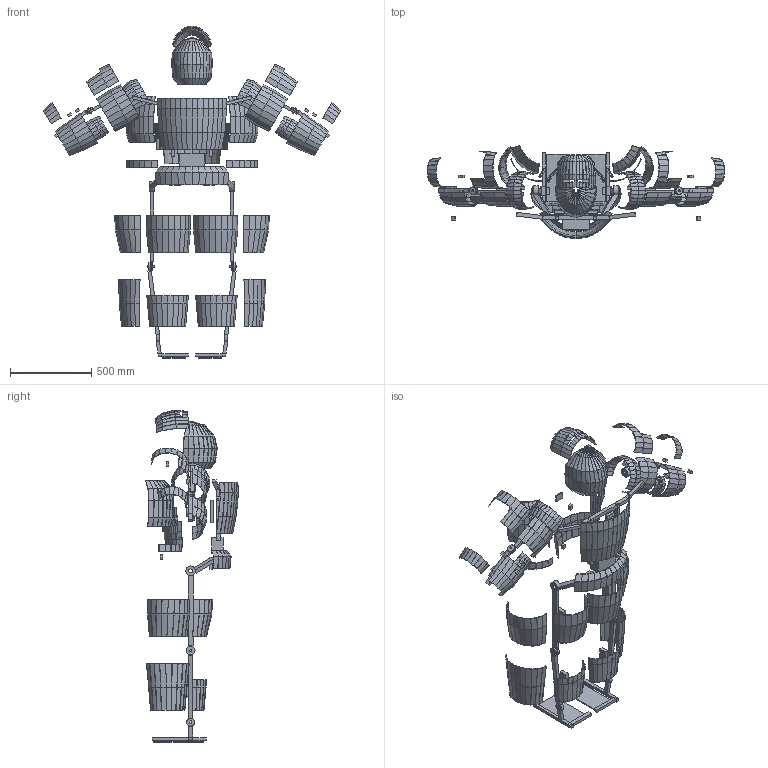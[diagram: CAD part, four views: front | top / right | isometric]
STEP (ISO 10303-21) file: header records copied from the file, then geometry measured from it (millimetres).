
FILE_DESCRIPTION(('Open CASCADE Model'),'2;1');
FILE_NAME('Open CASCADE Shape Model','2026-09-19T23:46:42',('Author'),( 'Open CASCADE'),'Open CASCADE STEP processor 7.9','Open CASCADE 7.9' ,'Unknown');
FILE_SCHEMA(('AUTOMOTIVE_DESIGN { 1 0 10303 214 1 1 1 1 }'));
Length unit declared in the file: millimetre
Products named in the file (111): IRON_DAD_P01_OPEN_LAYOUT_NOT_DONNING_PROOF; F01_L_BACK_RAIL; F01_R_BACK_RAIL; F02_BACK_UPPER_CROSS; F03_PELVIC_REAR_BRIDGE; F04_R_PELVIC_SIDE; J01_R_HIP_AXIS_ENVELOPE; J02_R_SHOULDER_AXIS_ENVELOPE; F05_R_SHOULDER_BRIDGE; F04_L_PELVIC_SIDE; J01_L_HIP_AXIS_ENVELOPE; J02_L_SHOULDER_AXIS_ENVELOPE; F05_L_SHOULDER_BRIDGE; J03_LUMBAR_INTERFACE_VOLUME; E01_REAR_SERVICE_BAY; P01_R_BACK_PAD_VOLUME; P02_R_PELVIC_PAD_VOLUME; P01_L_BACK_PAD_VOLUME; P02_L_PELVIC_PAD_VOLUME; S01_R_CHEST_DOOR; S01_L_CHEST_DOOR; S02_BACK_SKIN; L01_ABDOMEN_1; L01_ABDOMEN_2; L01_ABDOMEN_3; L02_R_OUTER_CHEST_1; L02_R_OUTER_CHEST_2; L02_R_OUTER_CHEST_3; L02_L_OUTER_CHEST_1; L02_L_OUTER_CHEST_2; L02_L_OUTER_CHEST_3; S03_PELVIS_REAR; S04_R_PELVIS_DOOR; S04_L_PELVIS_DOOR; F10_R_UPPER_ARM_RAIL; J10_R_ELBOW_UPPER_EYE; J11_R_ELBOW_LOWER_EYE; F11_R_FOREARM_RAIL; J12_R_ELBOW_PIN_LAYOUT; S10_R_BICEP_FRONT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
Assembly tree (110 placements, depth 2):
  IRON_DAD_P01_OPEN_LAYOUT_NOT_DONNING_PROOF
    F01_L_BACK_RAIL
    F01_R_BACK_RAIL
    F02_BACK_UPPER_CROSS
    F03_PELVIC_REAR_BRIDGE
    F04_R_PELVIC_SIDE
    J01_R_HIP_AXIS_ENVELOPE
    J02_R_SHOULDER_AXIS_ENVELOPE
    F05_R_SHOULDER_BRIDGE
    F04_L_PELVIC_SIDE
    J01_L_HIP_AXIS_ENVELOPE
    J02_L_SHOULDER_AXIS_ENVELOPE
    F05_L_SHOULDER_BRIDGE
    J03_LUMBAR_INTERFACE_VOLUME
    E01_REAR_SERVICE_BAY
    P01_R_BACK_PAD_VOLUME
    P02_R_PELVIC_PAD_VOLUME
    P01_L_BACK_PAD_VOLUME
    P02_L_PELVIC_PAD_VOLUME
    S01_R_CHEST_DOOR
    S01_L_CHEST_DOOR
    S02_BACK_SKIN
    L01_ABDOMEN_1
    L01_ABDOMEN_2
    L01_ABDOMEN_3
    L02_R_OUTER_CHEST_1
    L02_R_OUTER_CHEST_2
    L02_R_OUTER_CHEST_3
    L02_L_OUTER_CHEST_1
    L02_L_OUTER_CHEST_2
    L02_L_OUTER_CHEST_3
    S03_PELVIS_REAR
    S04_R_PELVIS_DOOR
    S04_L_PELVIS_DOOR
    F10_R_UPPER_ARM_RAIL
    J10_R_ELBOW_UPPER_EYE
    J11_R_ELBOW_LOWER_EYE
    F11_R_FOREARM_RAIL
    J12_R_ELBOW_PIN_LAYOUT
    S10_R_BICEP_FRONT
    S10_R_BICEP_REAR
    S11_R_FOREARM_FRONT
    S11_R_FOREARM_REAR
    E10_R_FOREARM_BAY
    P10_R_UPPERARM_PAD_VOLUME
    P11_R_FOREARM_PAD_VOLUME
    S12_R_SHOULDER_BELL
    L10_R_ELBOW_BACK_1
    L10_R_ELBOW_BACK_2
    L10_R_ELBOW_BACK_3
    G10_R_GAS_FIXED_ANCHOR
    G11_R_GAS_MOVING_ANCHOR
    F20_R_THIGH_RAIL
    J20_R_KNEE_UPPER_EYE
    J21_R_KNEE_LOWER_EYE
    F21_R_SHANK_RAIL
    J22_R_KNEE_PIN_LAYOUT
    J23_R_ANKLE_AXIS_ENVELOPE
    F22_R_FOOT_OUTER_RAIL
    F23_R_HEEL_CROSS
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Bounding box: 1827.86 x 573.16 x 2040.84 mm (x, y, z)
Volume: 13876088.6 mm3; surface area: 4869742.7 mm2
Topology: 110 solids, 110 shells, 2052 faces, 4764 edges, 2928 vertices
Faces by surface type: bspline 1332, plane 688, cylinder 32
Full cylindrical faces by diameter (mm): 8 x2, 8.5 x4, 10 x2, 10.5 x4, 16 x2, 20 x2, 24 x2, 46 x4, 50 x2, 54 x4, 56 x2, 60 x2
Entity records: 118300 total; most frequent: CARTESIAN_POINT 29483, DIRECTION 12174, LINE 10320, VECTOR 10320, ORIENTED_EDGE 9528, PCURVE 9528, DEFINITIONAL_REPRESENTATION 9528, EDGE_CURVE 4764
